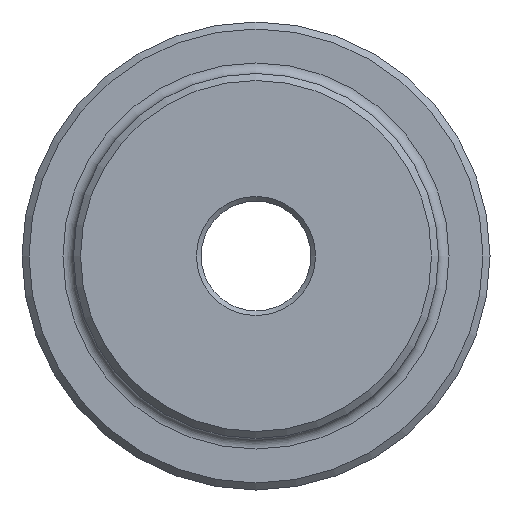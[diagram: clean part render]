
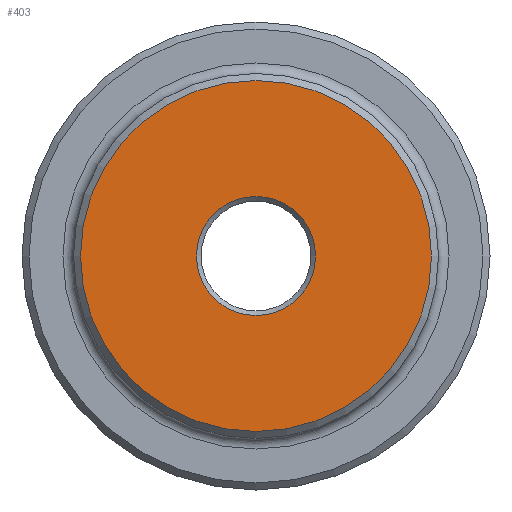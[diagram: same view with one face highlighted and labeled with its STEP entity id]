
A CAD part, left-side view. The second image highlights one B-rep face of the part: STEP entity #403.
In plain terms, the highlighted planar face has unit normal (-1, 0, 0).
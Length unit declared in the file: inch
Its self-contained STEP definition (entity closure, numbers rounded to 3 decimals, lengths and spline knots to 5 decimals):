
#145 = PLANE ( 'NONE',  #1121 ) ;
#317 = EDGE_CURVE ( 'NONE', #435, #435, #334, .T. ) ;
#324 = CARTESIAN_POINT ( 'NONE',  ( 0., 0., -1.5 ) ) ;
#334 = CIRCLE ( 'NONE', #1052, 1.5 ) ;
#360 = DIRECTION ( 'NONE',  ( 0., 0., -1. ) ) ;
#403 = ADVANCED_FACE ( 'NONE', ( #438, #1374 ), #145, .F. ) ;
#433 = DIRECTION ( 'NONE',  ( 1., 0., 0. ) ) ;
#435 = VERTEX_POINT ( 'NONE', #324 ) ;
#438 = FACE_BOUND ( 'NONE', #1564, .T. ) ;
#543 = CARTESIAN_POINT ( 'NONE',  ( 0., 0., -0.5089 ) ) ;
#564 = EDGE_LOOP ( 'NONE', ( #1452 ) ) ;
#616 = CIRCLE ( 'NONE', #1392, 0.5089 ) ;
#617 = EDGE_CURVE ( 'NONE', #1340, #1340, #616, .T. ) ;
#765 = CARTESIAN_POINT ( 'NONE',  ( 0., 0., 0. ) ) ;
#820 = ORIENTED_EDGE ( 'NONE', *, *, #617, .T. ) ;
#955 = DIRECTION ( 'NONE',  ( 1., 0., 0. ) ) ;
#1052 = AXIS2_PLACEMENT_3D ( 'NONE', #1398, #1281, #1339 ) ;
#1121 = AXIS2_PLACEMENT_3D ( 'NONE', #1550, #433, #1584 ) ;
#1281 = DIRECTION ( 'NONE',  ( -1., 0., 0. ) ) ;
#1339 = DIRECTION ( 'NONE',  ( 0., 0., -1. ) ) ;
#1340 = VERTEX_POINT ( 'NONE', #543 ) ;
#1374 = FACE_OUTER_BOUND ( 'NONE', #564, .T. ) ;
#1392 = AXIS2_PLACEMENT_3D ( 'NONE', #765, #955, #360 ) ;
#1398 = CARTESIAN_POINT ( 'NONE',  ( 0., 0., 0. ) ) ;
#1452 = ORIENTED_EDGE ( 'NONE', *, *, #317, .T. ) ;
#1550 = CARTESIAN_POINT ( 'NONE',  ( 0., 0., 0. ) ) ;
#1564 = EDGE_LOOP ( 'NONE', ( #820 ) ) ;
#1584 = DIRECTION ( 'NONE',  ( 0., 0., -1. ) ) ;
